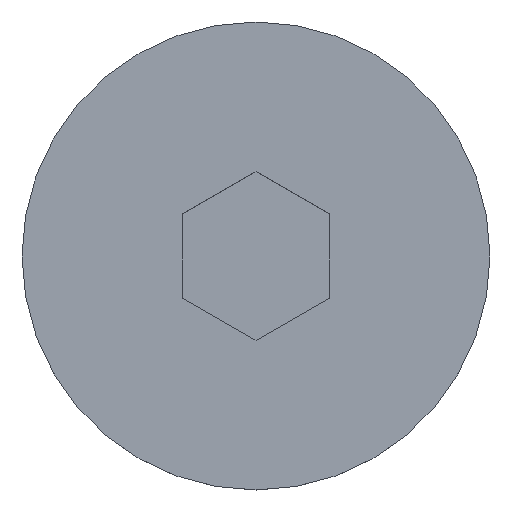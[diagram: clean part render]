
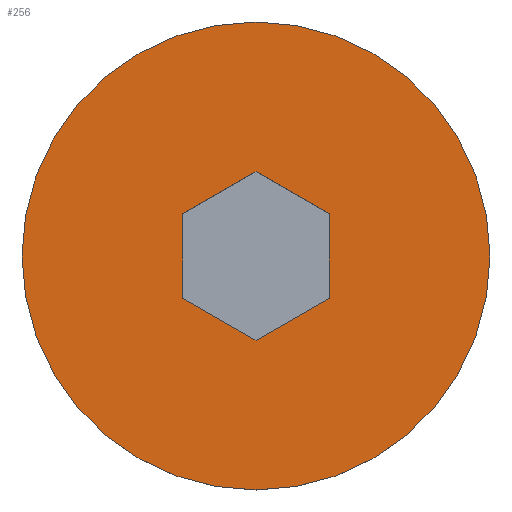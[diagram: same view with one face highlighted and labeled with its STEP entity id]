
A CAD part, top view. The second image highlights one B-rep face of the part: STEP entity #256.
In plain terms, the highlighted planar face has unit normal (0, 0, 1).
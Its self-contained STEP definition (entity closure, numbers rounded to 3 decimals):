
#5 = EDGE_LOOP ( 'NONE', ( #224, #405, #421, #228, #170, #22 ) ) ;
#12 = LINE ( 'NONE', #441, #172 ) ;
#22 = ORIENTED_EDGE ( 'NONE', *, *, #245, .F. ) ;
#25 = CARTESIAN_POINT ( 'NONE',  ( -3., 1.732, 5.22 ) ) ;
#29 = VECTOR ( 'NONE', #64, 1000. ) ;
#30 = DIRECTION ( 'NONE',  ( 0., 1., 0. ) ) ;
#31 = CARTESIAN_POINT ( 'NONE',  ( 0., 3.464, 5.22 ) ) ;
#33 = ORIENTED_EDGE ( 'NONE', *, *, #93, .F. ) ;
#36 = FACE_OUTER_BOUND ( 'NONE', #277, .T. ) ;
#46 = DIRECTION ( 'NONE',  ( 0., -1., 0. ) ) ;
#48 = DIRECTION ( 'NONE',  ( -0.866, -0.5, 0. ) ) ;
#61 = EDGE_CURVE ( 'NONE', #307, #343, #216, .T. ) ;
#64 = DIRECTION ( 'NONE',  ( -0.866, 0.5, 0. ) ) ;
#90 = CARTESIAN_POINT ( 'NONE',  ( -3., 1.732, 5.22 ) ) ;
#93 = EDGE_CURVE ( 'NONE', #414, #252, #98, .T. ) ;
#94 = VECTOR ( 'NONE', #30, 1000. ) ;
#98 = CIRCLE ( 'NONE', #186, 9.61 ) ;
#109 = EDGE_CURVE ( 'NONE', #252, #414, #380, .T. ) ;
#110 = CARTESIAN_POINT ( 'NONE',  ( -9.61, 0., 5.22 ) ) ;
#134 = VERTEX_POINT ( 'NONE', #25 ) ;
#138 = CARTESIAN_POINT ( 'NONE',  ( 0., 0., 5.22 ) ) ;
#142 = EDGE_CURVE ( 'NONE', #249, #318, #12, .T. ) ;
#164 = DIRECTION ( 'NONE',  ( -1., 0., 0. ) ) ;
#169 = DIRECTION ( 'NONE',  ( 0., 0., -1. ) ) ;
#170 = ORIENTED_EDGE ( 'NONE', *, *, #237, .F. ) ;
#172 = VECTOR ( 'NONE', #231, 1000. ) ;
#183 = CARTESIAN_POINT ( 'NONE',  ( 0., 3.464, 5.22 ) ) ;
#186 = AXIS2_PLACEMENT_3D ( 'NONE', #138, #169, #164 ) ;
#187 = PLANE ( 'NONE',  #274 ) ;
#199 = CARTESIAN_POINT ( 'NONE',  ( 3., -1.732, 5.22 ) ) ;
#216 = LINE ( 'NONE', #352, #29 ) ;
#224 = ORIENTED_EDGE ( 'NONE', *, *, #61, .F. ) ;
#228 = ORIENTED_EDGE ( 'NONE', *, *, #338, .F. ) ;
#229 = AXIS2_PLACEMENT_3D ( 'NONE', #418, #320, #387 ) ;
#231 = DIRECTION ( 'NONE',  ( 0.866, 0.5, 0. ) ) ;
#237 = EDGE_CURVE ( 'NONE', #134, #370, #353, .T. ) ;
#238 = DIRECTION ( 'NONE',  ( 0.866, -0.5, 0. ) ) ;
#245 = EDGE_CURVE ( 'NONE', #343, #134, #246, .T. ) ;
#246 = LINE ( 'NONE', #183, #344 ) ;
#249 = VERTEX_POINT ( 'NONE', #368 ) ;
#252 = VERTEX_POINT ( 'NONE', #331 ) ;
#254 = VECTOR ( 'NONE', #238, 1000. ) ;
#256 = ADVANCED_FACE ( 'NONE', ( #359, #36 ), #187, .T. ) ;
#266 = CARTESIAN_POINT ( 'NONE',  ( 3., -1.732, 5.22 ) ) ;
#274 = AXIS2_PLACEMENT_3D ( 'NONE', #398, #294, #295 ) ;
#277 = EDGE_LOOP ( 'NONE', ( #33, #362 ) ) ;
#294 = DIRECTION ( 'NONE',  ( 0., 0., 1. ) ) ;
#295 = DIRECTION ( 'NONE',  ( 1., 0., 0. ) ) ;
#307 = VERTEX_POINT ( 'NONE', #378 ) ;
#318 = VERTEX_POINT ( 'NONE', #199 ) ;
#320 = DIRECTION ( 'NONE',  ( 0., 0., -1. ) ) ;
#331 = CARTESIAN_POINT ( 'NONE',  ( 9.61, 0., 5.22 ) ) ;
#338 = EDGE_CURVE ( 'NONE', #370, #249, #433, .T. ) ;
#339 = LINE ( 'NONE', #266, #94 ) ;
#343 = VERTEX_POINT ( 'NONE', #31 ) ;
#344 = VECTOR ( 'NONE', #48, 1000. ) ;
#352 = CARTESIAN_POINT ( 'NONE',  ( 3., 1.732, 5.22 ) ) ;
#353 = LINE ( 'NONE', #90, #367 ) ;
#359 = FACE_BOUND ( 'NONE', #5, .T. ) ;
#362 = ORIENTED_EDGE ( 'NONE', *, *, #109, .F. ) ;
#367 = VECTOR ( 'NONE', #46, 1000. ) ;
#368 = CARTESIAN_POINT ( 'NONE',  ( 0., -3.464, 5.22 ) ) ;
#370 = VERTEX_POINT ( 'NONE', #412 ) ;
#378 = CARTESIAN_POINT ( 'NONE',  ( 3., 1.732, 5.22 ) ) ;
#380 = CIRCLE ( 'NONE', #229, 9.61 ) ;
#387 = DIRECTION ( 'NONE',  ( -1., 0., 0. ) ) ;
#398 = CARTESIAN_POINT ( 'NONE',  ( -9.61, 0., 5.22 ) ) ;
#405 = ORIENTED_EDGE ( 'NONE', *, *, #406, .F. ) ;
#406 = EDGE_CURVE ( 'NONE', #318, #307, #339, .T. ) ;
#411 = CARTESIAN_POINT ( 'NONE',  ( -3., -1.732, 5.22 ) ) ;
#412 = CARTESIAN_POINT ( 'NONE',  ( -3., -1.732, 5.22 ) ) ;
#414 = VERTEX_POINT ( 'NONE', #110 ) ;
#418 = CARTESIAN_POINT ( 'NONE',  ( 0., 0., 5.22 ) ) ;
#421 = ORIENTED_EDGE ( 'NONE', *, *, #142, .F. ) ;
#433 = LINE ( 'NONE', #411, #254 ) ;
#441 = CARTESIAN_POINT ( 'NONE',  ( 0., -3.464, 5.22 ) ) ;
